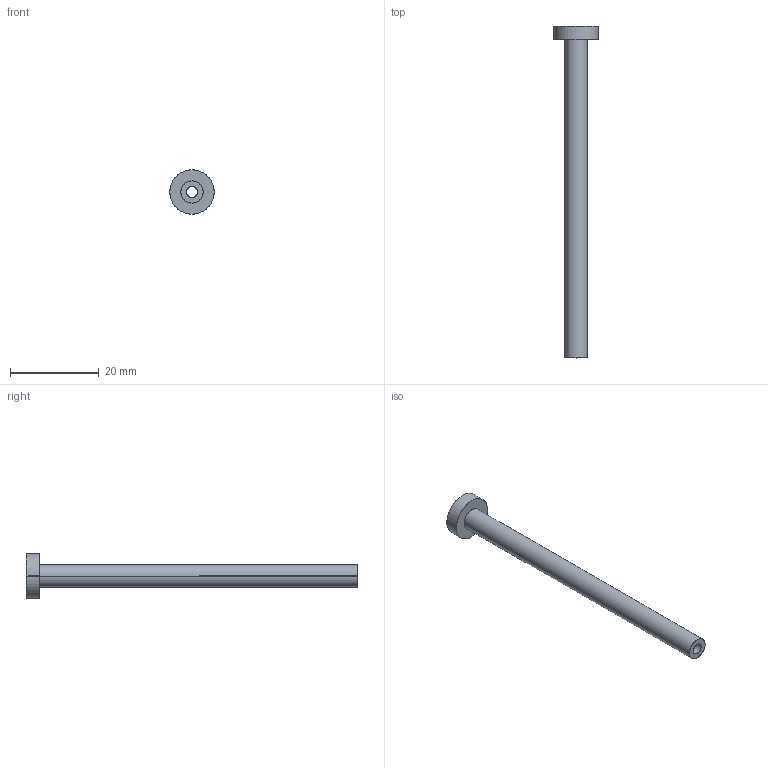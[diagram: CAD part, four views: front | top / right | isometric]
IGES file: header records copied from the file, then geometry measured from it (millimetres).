
Start section: SolidWorks IGES file using analytic representation for surfaces
Global section: file name: D:\Cleonir_particular\Matripeças\Buchas Extratoras\BE02,505075.IGS; native system: SolidWorks 2013; preprocessor: SolidWorks 2013; author: Cleonir; date: 130304.164230; units: millimetre
Bounding box: 10 x 75 x 10 mm (x, y, z)
Surface area: 2042.8 mm2 (no closed solid volume)
Topology: 0 solids, 0 shells, 324 faces, 3202 edges, 3202 vertices
Faces by surface type: bspline 304, revolution 20
